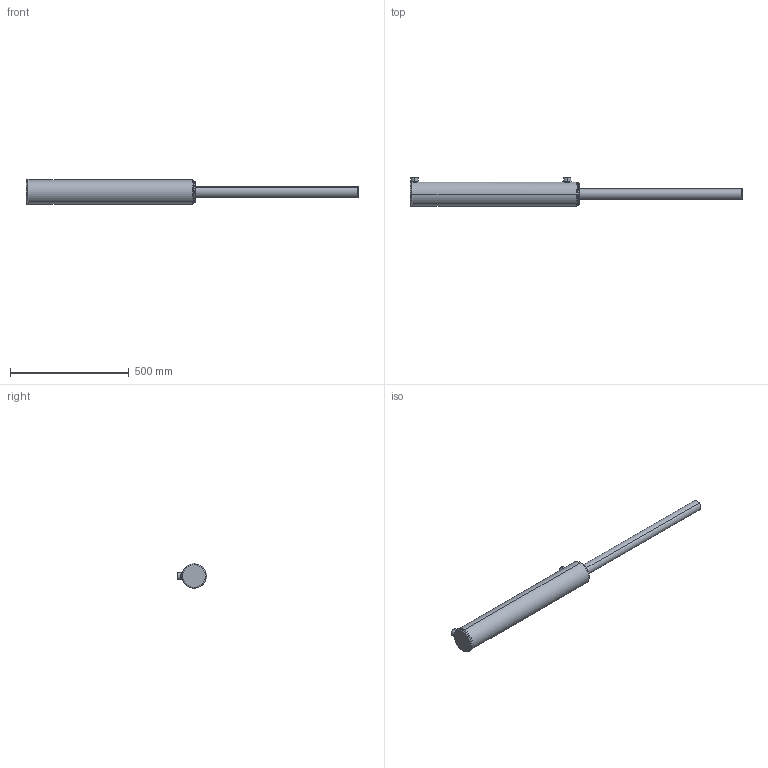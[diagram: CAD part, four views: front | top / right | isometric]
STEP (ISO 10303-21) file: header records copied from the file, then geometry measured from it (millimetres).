
FILE_DESCRIPTION (( 'STEP AP203' ), '1' );
FILE_NAME ('BL350175x610 (24) extended.STEP', '2014-11-24T03:28:22', ( '' ), ( '' ), 'SwSTEP 2.0', 'SolidWorks 2014', '' );
FILE_SCHEMA (( 'CONFIG_CONTROL_DESIGN' ));
Length unit declared in the file: millimetre
Products named in the file (3): Spare_3.5x24; BL350175x610 (24) extended; BL body 3.5_3.5x24
Assembly tree (2 placements, depth 2):
  BL350175x610 (24) extended
    BL body 3.5_3.5x24
    Spare_3.5x24
Bounding box: 1395 x 124.39 x 107.17 mm (x, y, z)
Volume: 6547785.6 mm3; surface area: 397651 mm2
Topology: 2 solids, 2 shells, 88 faces, 205 edges, 126 vertices
Faces by surface type: cylinder 32, plane 20, torus 17, bspline 11, cone 8
Entity records: 6022 total; most frequent: CARTESIAN_POINT 3775, DIRECTION 420, ORIENTED_EDGE 402, EDGE_CURVE 201, AXIS2_PLACEMENT_3D 181, VERTEX_POINT 126, EDGE_LOOP 101, CIRCLE 99
